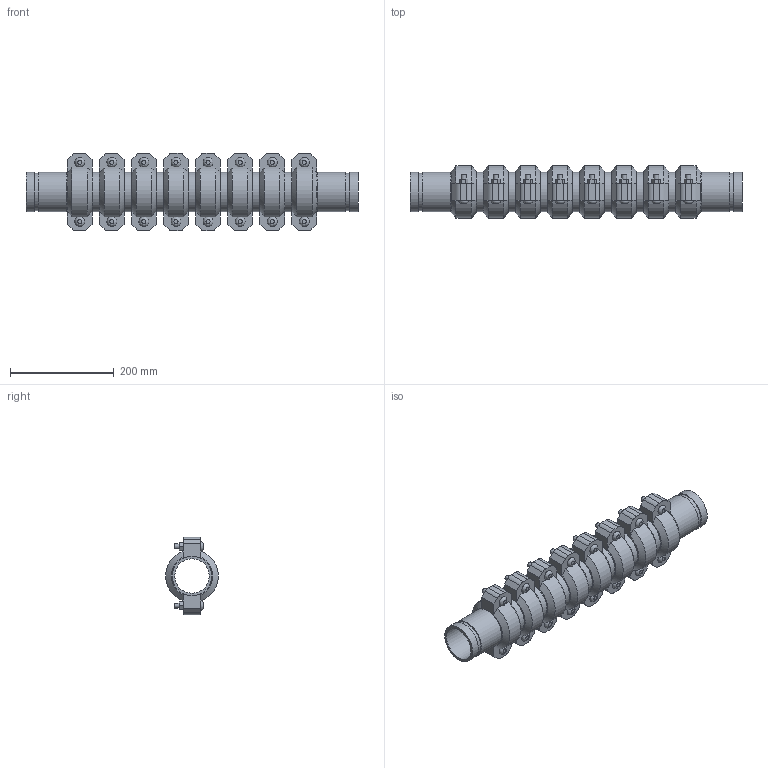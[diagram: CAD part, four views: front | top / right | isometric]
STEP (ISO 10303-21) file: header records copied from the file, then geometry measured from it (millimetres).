
FILE_DESCRIPTION(/* description */ ('VIC EXPANSION JOINT 8 COUPLINGS EXPANDED STYLE 155 (OGS)','CAx-IF Rec.Pracs.---Representation and Presentation of Product Manufacturing Information (PMI)---4.0---2014-10-13'),/* implementation_level */ '2;1');
FILE_NAME(/* name */ 'C:\Users\kkamble\AppData\Roaming\Autodesk\ApplicationPlugins\Victaulic.Temp\A413\Victaulic_IPS_Expansion Joint_Expanded_8 Couplings_Style 155 (OGS)_02.5 (76.1) (65).stp',/* time_stamp */ '2021-06-27T00:08:59+02:00',/* author */ ('kkamble'),/* organization */ ('Victaulic'),/* preprocessor_version */ 'ST-DEVELOPER v17.2',/* originating_system */ 'Autodesk Inventor 2019',/* authorisation */ '');
FILE_SCHEMA (('AP242_MANAGED_MODEL_BASED_3D_ENGINEERING_MIM_LF { 1 0 10303 442 1 1 4 }'));
Length unit declared in the file: inch
Products named in the file (4): 155-02.5 (76.1); Nipple-02.5 (76.1); Nipple-02.5 (76.1)_1; 075-02.5 (76.1)
Assembly tree (17 placements, depth 2):
  155-02.5 (76.1)
    Nipple-02.5 (76.1)  x2
    Nipple-02.5 (76.1)_1  x7
    075-02.5 (76.1)  x8
Bounding box: 641.35 x 101.25 x 149.86 mm (x, y, z)
Volume: 2376784.9 mm3; surface area: 679366.5 mm2
Topology: 17 solids, 33 shells, 564 faces, 1366 edges, 952 vertices
Faces by surface type: plane 342, cylinder 174, cone 32, bspline 16
Full cylindrical faces by diameter (mm): 9.525 x32, 11.43 x16, 66.65 x9, 69.85 x8, 72.263 x18, 76.2 x43
Entity records: 2899 total; most frequent: CARTESIAN_POINT 533, DIRECTION 479, ORIENTED_EDGE 394, EDGE_CURVE 197, AXIS2_PLACEMENT_3D 192, VERTEX_POINT 140, EDGE_LOOP 105, LINE 95
